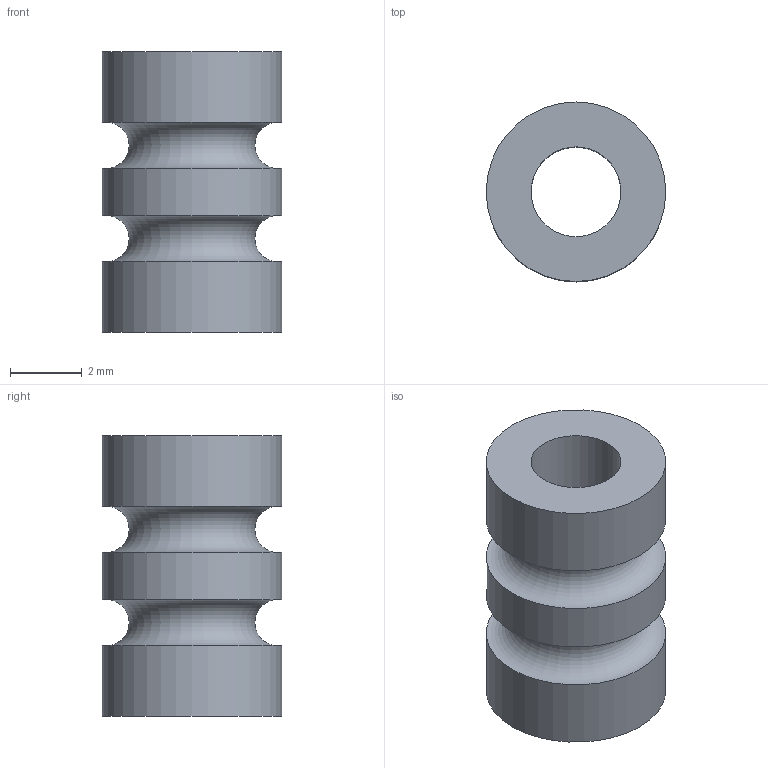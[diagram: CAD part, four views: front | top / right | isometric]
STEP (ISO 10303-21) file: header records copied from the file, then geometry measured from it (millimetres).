
FILE_DESCRIPTION(('FreeCAD Model'),'2;1');
FILE_NAME('Open CASCADE Shape Model','2026-10-18T19:16:07',('FreeCAD'),( 'FreeCAD'),'Open CASCADE STEP processor 7.9','FreeCAD','Unknown');
FILE_SCHEMA(('AUTOMOTIVE_DESIGN { 1 0 10303 214 1 1 1 1 }'));
Length unit declared in the file: millimetre
Products named in the file (1): Open CASCADE STEP translator 7.9 7
Bounding box: 5 x 5 x 7.8 mm (x, y, z)
Volume: 93.2 mm3; surface area: 230 mm2
Topology: 1 solids, 1 shells, 8 faces, 14 edges, 8 vertices
Faces by surface type: cylinder 4, torus 2, plane 2
Full cylindrical faces by diameter (mm): 2.5 x1, 5 x3
Entity records: 210 total; most frequent: DIRECTION 42, CARTESIAN_POINT 31, ORIENTED_EDGE 28, AXIS2_PLACEMENT_3D 19, EDGE_CURVE 14, FACE_BOUND 10, EDGE_LOOP 10, CIRCLE 10
